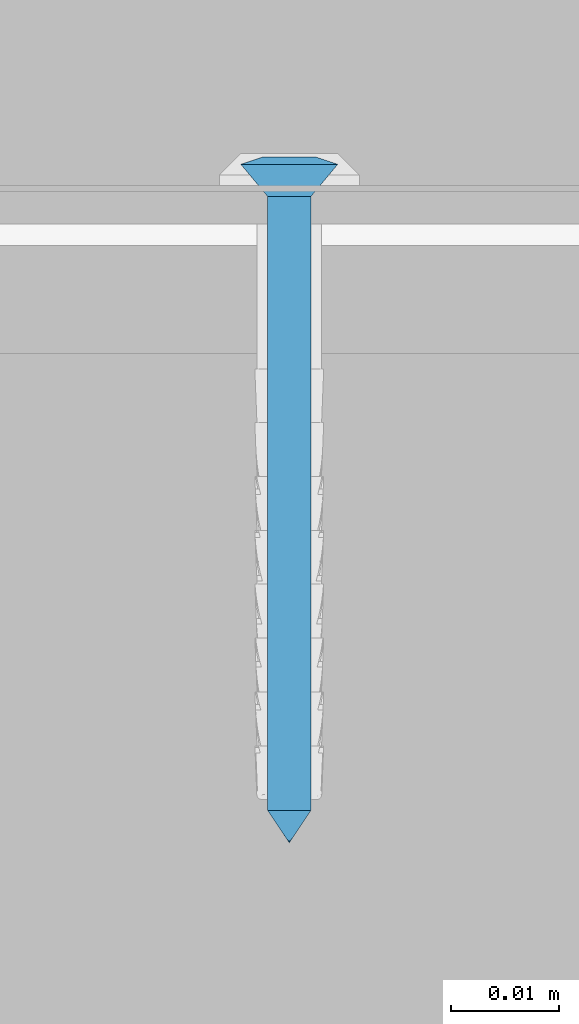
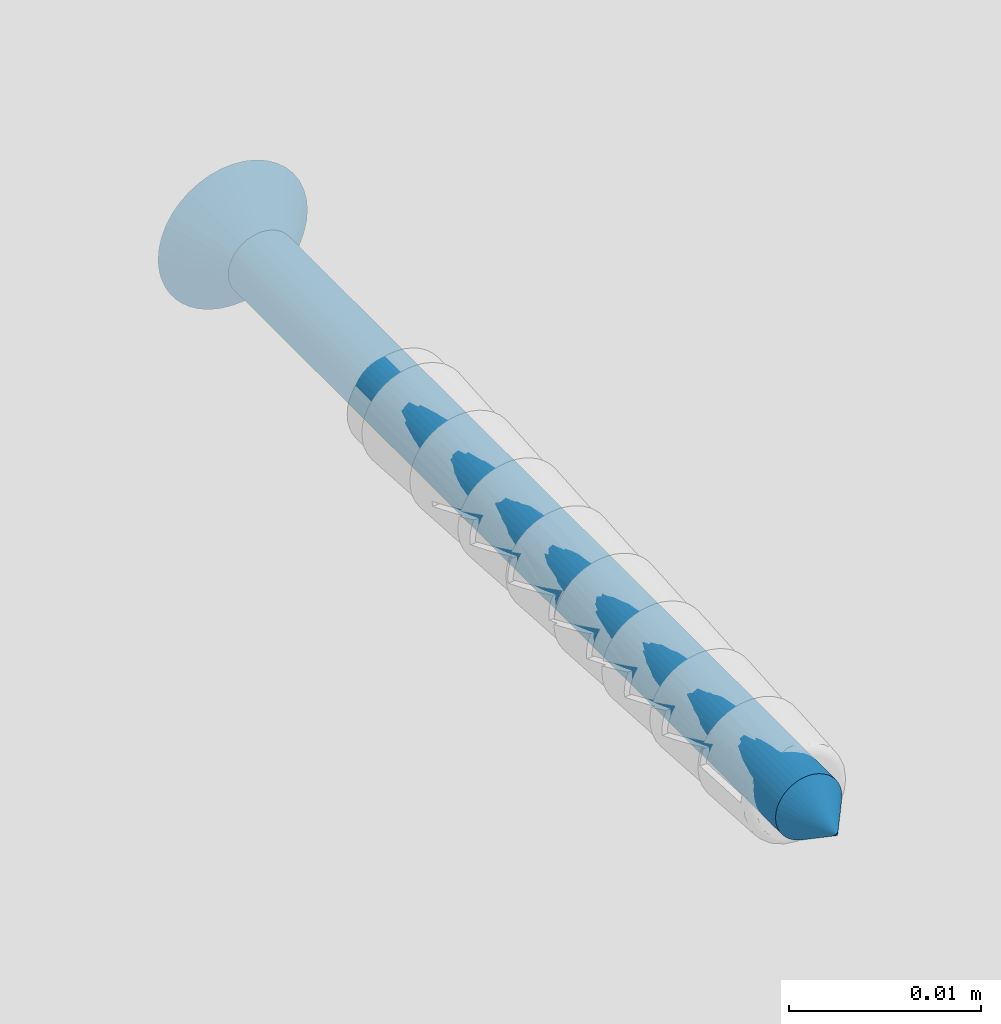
# One storey, part 12 of 92: 1 wall.
"""IFC2X3 building model written with IfcOpenShell, lengths in millimetres."""

from ifc_helpers import new_model, si_unit, frame, origin_with_axes, place, context, subcontext, project, spatial, faceted_brep, material, type_object, element, save


model = new_model("IFC2X3")

# Units and contexts
model_context = context("Model", 3, world=origin_with_axes())
body_context = subcontext(model_context, "Body", "Model", "MODEL_VIEW")
ifc_project = project(units=[si_unit("LENGTHUNIT", "METRE", prefix="MILLI"), si_unit("AREAUNIT", "SQUARE_METRE"), si_unit("VOLUMEUNIT", "CUBIC_METRE")], contexts=[model_context])

# Site, building, storey
site_placement = place(None, origin_with_axes())
site = spatial("IfcSite", under=ifc_project, at=site_placement, Name="Default Site", CompositionType="ELEMENT")
building_placement = place(site_placement, origin_with_axes())
building = spatial("IfcBuilding", under=site, at=building_placement, Name="Default Building", CompositionType="ELEMENT")
storey_placement = place(building_placement, origin_with_axes())
storey = spatial("IfcBuildingStorey", under=building, at=storey_placement, Name="Default Building Storey", CompositionType="ELEMENT", Elevation=0.0)

# Wall
ifc_material = material(Name="Default")
wall_type = type_object("IfcWallType", Name="Kołek rozporowy min. fi 6", PredefinedType="NOTDEFINED")
wall_placement = place(storey_placement, frame((3527.8498144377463, 118.01549176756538, 3896.2310908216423), z_axis=(-1.89380159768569e-13, 1.0, 3.3306690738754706e-16), x_axis=(1.9030997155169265e-13, -3.3306690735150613e-16, 1.0)))
element("IfcWall", 1, at=wall_placement, inside=storey, type_object=wall_type, material=ifc_material, Name="Kołek rozporowy min. fi 6", context=body_context, shape_type="Brep", body=[
    faceted_brep([(-1438.2587671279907, -3452.579259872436, -0.46425670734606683), (-1435.7895851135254, -3452.970266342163, -3.464256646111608), (-1435.8141422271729, -3453.2833099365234, -3.464256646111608), (-1438.3141994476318, -3453.2833099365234, -0.46425670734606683), (-1438.093900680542, -3451.892614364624, -0.46425670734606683), (-1435.7162714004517, -3452.6650905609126, -3.464256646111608), (-1437.8236532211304, -3451.240301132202, -0.46425670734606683), (-1435.5961084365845, -3452.3751735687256, -3.464256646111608), (-1437.4547004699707, -3450.6382942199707, -0.46425670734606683), (-1435.4321956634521, -3452.107667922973, -3.464256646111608), (-1436.9961023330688, -3450.101137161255, -0.46425670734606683), (-1435.22834777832, -3451.8690109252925, -3.464256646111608), (-1436.4591836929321, -3449.642658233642, -0.46425670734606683), (-1434.9896907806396, -3451.665163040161, -3.464256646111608), (-1435.8570575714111, -3449.2735862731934, -0.46425670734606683), (-1434.7221851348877, -3451.501131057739, -3.464256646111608), (-1435.2047443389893, -3449.0034580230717, -0.46425670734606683), (-1434.4321489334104, -3451.381206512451, -3.464256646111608), (-1434.5180988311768, -3448.838710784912, -0.46425670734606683), (-1434.1269731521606, -3451.307773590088, -3.464256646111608), (-1433.8141679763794, -3448.7831592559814, -0.46425670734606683), (-1433.8141679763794, -3451.28321647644, -3.464256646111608), (-1433.110237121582, -3448.838710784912, -0.46425670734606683), (-1433.5012435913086, -3451.307773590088, -3.464256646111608), (-1432.4235916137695, -3449.0034580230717, -0.46425670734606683), (-1433.1960678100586, -3451.381206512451, -3.464256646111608), (-1431.771159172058, -3449.2735862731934, -0.46425670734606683), (-1432.9061508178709, -3451.501131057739, -3.464256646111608), (-1431.1691522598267, -3449.642658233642, -0.46425670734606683), (-1432.6385259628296, -3451.665163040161, -3.464256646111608), (-1430.6321144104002, -3450.101137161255, -0.46425670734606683), (-1432.3999881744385, -3451.8690109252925, -3.464256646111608), (-1430.1735162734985, -3450.6382942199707, -0.46425670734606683), (-1432.1961402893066, -3452.107667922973, -3.464256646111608), (-1429.8045635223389, -3451.240301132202, -0.46425670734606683), (-1432.0321083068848, -3452.3751735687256, -3.464256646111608), (-1429.5344352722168, -3451.892614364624, -0.46425670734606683), (-1431.9120645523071, -3452.6650905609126, -3.464256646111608), (-1431.814193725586, -3453.2833099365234, -3.464256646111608), (-1429.314136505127, -3453.2833099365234, -0.46425670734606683), (-1429.369568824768, -3453.9871215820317, -0.46425670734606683), (-1431.8387508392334, -3453.5961151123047, -3.464256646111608), (-1431.8387508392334, -3452.970266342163, -3.464256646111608), (-1429.369568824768, -3452.579259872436, -0.46425670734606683), (-1429.5344352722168, -3454.6737670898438, -0.46425670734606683), (-1431.9120645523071, -3453.9012908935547, -3.464256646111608), (-1429.8045635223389, -3455.3260803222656, -0.46425670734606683), (-1432.0321083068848, -3454.191207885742, -3.464256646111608), (-1430.1735162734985, -3455.9283256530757, -0.46425670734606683), (-1432.1961402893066, -3454.458713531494, -3.464256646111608), (-1430.6321144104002, -3456.465244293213, -0.46425670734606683), (-1432.3999881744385, -3454.6973705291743, -3.464256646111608), (-1431.1691522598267, -3456.923723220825, -0.46425670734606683), (-1432.6385259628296, -3454.9012184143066, -3.464256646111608), (-1431.771159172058, -3457.2927951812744, -0.46425670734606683), (-1432.9061508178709, -3455.065250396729, -3.464256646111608), (-1432.4235916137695, -3457.562923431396, -0.46425670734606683), (-1433.1960678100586, -3455.1854133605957, -3.464256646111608), (-1433.110237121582, -3457.7279090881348, -0.46425670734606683), (-1433.5012435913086, -3455.25860786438, -3.464256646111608), (-1433.8141679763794, -3457.7832221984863, -0.46425670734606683), (-1433.8141679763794, -3455.283164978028, -3.464256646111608), (-1434.1269731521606, -3455.25860786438, -3.464256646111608), (-1434.3430995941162, -3457.7519893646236, -0.46425670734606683), (-1434.4321489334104, -3455.1854133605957, -3.464256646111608), (-1434.8646402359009, -3457.6590061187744, -0.46425670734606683), (-1435.3716373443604, -3457.504987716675, -0.46425670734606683), (-1434.7221851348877, -3455.065250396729, -3.464256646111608), (-1435.8570575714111, -3457.2927951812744, -0.46425670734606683), (-1436.3142251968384, -3457.024812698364, -0.46425670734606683), (-1435.22834777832, -3454.6973705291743, -3.464256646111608), (-1434.9896907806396, -3454.9012184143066, -3.464256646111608), (-1436.7367029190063, -3456.705093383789, -0.46425670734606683), (-1437.118649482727, -3456.337928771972, -0.46425670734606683), (-1435.4321956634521, -3454.458713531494, -3.464256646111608), (-1437.4547004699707, -3455.9283256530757, -0.46425670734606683), (-1437.8236532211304, -3455.3260803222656, -0.46425670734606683), (-1435.5961084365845, -3454.191207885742, -3.464256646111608), (-1438.093900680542, -3454.6737670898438, -0.46425670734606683), (-1435.7162714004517, -3453.9012908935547, -3.464256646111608), (-1438.2587671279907, -3453.9871215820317, -0.46425670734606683), (-1435.7895851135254, -3453.5961151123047, -3.464256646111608), (-1433.8141679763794, -3455.7831287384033, 0.20073754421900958), (-1434.2052936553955, -3455.752372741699, 0.20073754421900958), (-1434.5866441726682, -3455.6608200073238, 0.20073754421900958), (-1434.9491596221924, -3455.510854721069, 0.20073754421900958), (-1435.2836608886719, -3455.305814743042, 0.20073754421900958), (-1435.581922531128, -3455.0509452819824, 0.20073754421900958), (-1435.836672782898, -3454.7526836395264, 0.20073754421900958), (-1436.0417127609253, -3454.418182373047, 0.20073754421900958), (-1436.1917972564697, -3454.0557861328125, 0.20073754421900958), (-1436.2833499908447, -3453.6743164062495, 0.20073754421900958), (-1436.3141059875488, -3453.2833099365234, 0.20073754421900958), (-1436.2833499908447, -3452.8920650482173, 0.20073754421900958), (-1436.1917972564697, -3452.5105953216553, 0.20073754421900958), (-1436.0417127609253, -3452.148199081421, 0.20073754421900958), (-1435.836672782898, -3451.8136978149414, 0.20073754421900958), (-1435.581922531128, -3451.5154361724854, 0.20073754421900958), (-1435.2836608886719, -3451.260566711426, 0.20073754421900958), (-1434.9491596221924, -3451.0557651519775, 0.20073754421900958), (-1434.5866441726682, -3450.905561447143, 0.20073754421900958), (-1433.8141679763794, -3450.7832527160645, 0.20073754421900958), (-1433.4230422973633, -3450.8140087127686, 0.20073754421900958), (-1434.2052936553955, -3450.8140087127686, 0.20073754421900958), (-1433.0415725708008, -3450.905561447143, 0.20073754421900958), (-1432.6791763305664, -3451.0557651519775, 0.20073754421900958), (-1432.344675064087, -3451.260566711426, 0.20073754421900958), (-1432.0464134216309, -3451.5154361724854, 0.20073754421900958), (-1431.7916631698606, -3451.8136978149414, 0.20073754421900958), (-1431.5866231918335, -3452.148199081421, 0.20073754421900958), (-1431.436538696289, -3452.5105953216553, 0.20073754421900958), (-1431.344985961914, -3452.8920650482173, 0.20073754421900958), (-1431.3141107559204, -3453.2833099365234, 0.20073754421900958), (-1431.344985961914, -3453.6743164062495, 0.20073754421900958), (-1431.436538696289, -3454.0557861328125, 0.20073754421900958), (-1431.5866231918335, -3454.418182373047, 0.20073754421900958), (-1431.7916631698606, -3454.7526836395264, 0.20073754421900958), (-1432.0464134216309, -3455.0509452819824, 0.20073754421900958), (-1432.344675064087, -3455.305814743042, 0.20073754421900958), (-1432.6791763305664, -3455.510854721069, 0.20073754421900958), (-1433.0415725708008, -3455.6608200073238, 0.20073754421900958), (-1433.4230422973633, -3455.752372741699, 0.20073754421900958), (-1435.8141422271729, -3453.2833099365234, -60.464255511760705), (-1435.7895851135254, -3452.970266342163, -60.464255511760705), (-1433.8141679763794, -3453.2833099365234, -63.46425414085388), (-1435.7162714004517, -3452.6650905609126, -60.464255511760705), (-1435.5961084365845, -3452.3751735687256, -60.464255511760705), (-1435.4321956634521, -3452.107667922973, -60.464255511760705), (-1435.22834777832, -3451.8690109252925, -60.464255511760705), (-1434.9896907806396, -3451.665163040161, -60.464255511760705), (-1434.7221851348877, -3451.501131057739, -60.464255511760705), (-1434.4321489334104, -3451.381206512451, -60.464255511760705), (-1434.1269731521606, -3451.307773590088, -60.464255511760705), (-1433.8141679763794, -3451.28321647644, -60.464255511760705), (-1433.5012435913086, -3451.307773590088, -60.464255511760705), (-1433.1960678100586, -3451.381206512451, -60.464255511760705), (-1432.9061508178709, -3451.501131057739, -60.464255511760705), (-1432.6385259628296, -3451.665163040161, -60.464255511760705), (-1432.3999881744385, -3451.8690109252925, -60.464255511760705), (-1432.1961402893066, -3452.107667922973, -60.464255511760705), (-1432.0321083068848, -3452.3751735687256, -60.464255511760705), (-1431.9120645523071, -3452.6650905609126, -60.464255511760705), (-1431.8387508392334, -3452.970266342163, -60.464255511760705), (-1431.814193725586, -3453.2833099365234, -60.464255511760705), (-1431.8387508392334, -3453.5961151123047, -60.464255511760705), (-1431.9120645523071, -3453.9012908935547, -60.464255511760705), (-1432.0321083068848, -3454.191207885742, -60.464255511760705), (-1432.1961402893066, -3454.458713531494, -60.464255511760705), (-1432.3999881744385, -3454.6973705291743, -60.464255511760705), (-1432.6385259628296, -3454.9012184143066, -60.464255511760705), (-1432.9061508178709, -3455.065250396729, -60.464255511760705), (-1433.1960678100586, -3455.1854133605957, -60.464255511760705), (-1433.5012435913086, -3455.25860786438, -60.464255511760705), (-1433.8141679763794, -3455.283164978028, -60.464255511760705), (-1434.1269731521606, -3455.25860786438, -60.464255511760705), (-1434.4321489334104, -3455.1854133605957, -60.464255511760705), (-1434.7221851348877, -3455.065250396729, -60.464255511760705), (-1434.9896907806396, -3454.9012184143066, -60.464255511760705), (-1435.22834777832, -3454.6973705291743, -60.464255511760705), (-1435.4321956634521, -3454.458713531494, -60.464255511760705), (-1435.5961084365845, -3454.191207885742, -60.464255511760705), (-1435.7162714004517, -3453.9012908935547, -60.464255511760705), (-1435.7895851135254, -3453.5961151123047, -60.464255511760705), (-1436.1917972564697, -3454.0557861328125, 0.049999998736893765), (-1436.0417127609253, -3454.418182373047, 0.049999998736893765), (-1435.836672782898, -3454.7526836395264, 0.049999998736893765), (-1435.581922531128, -3455.0509452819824, 0.049999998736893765), (-1435.2836608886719, -3455.305814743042, 0.049999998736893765), (-1434.9491596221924, -3455.510854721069, 0.049999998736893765), (-1434.5866441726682, -3455.6608200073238, 0.049999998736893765), (-1434.2052936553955, -3455.752372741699, 0.049999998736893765), (-1433.8141679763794, -3455.7831287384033, 0.049999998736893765), (-1433.4230422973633, -3455.752372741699, 0.049999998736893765), (-1433.0415725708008, -3455.6608200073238, 0.049999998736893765), (-1432.6791763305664, -3455.510854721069, 0.049999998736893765), (-1432.344675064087, -3455.305814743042, 0.049999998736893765), (-1432.0464134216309, -3455.0509452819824, 0.049999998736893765), (-1431.7916631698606, -3454.7526836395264, 0.049999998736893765), (-1431.5866231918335, -3454.418182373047, 0.049999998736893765), (-1431.436538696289, -3454.0557861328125, 0.049999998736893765), (-1431.344985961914, -3453.6743164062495, 0.049999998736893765), (-1431.3141107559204, -3453.2833099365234, 0.049999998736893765), (-1431.344985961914, -3452.8920650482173, 0.049999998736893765), (-1431.436538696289, -3452.5105953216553, 0.049999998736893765), (-1431.5866231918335, -3452.148199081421, 0.049999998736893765), (-1431.7916631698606, -3451.8136978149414, 0.049999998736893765), (-1432.0464134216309, -3451.5154361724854, 0.049999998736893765), (-1432.344675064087, -3451.260566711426, 0.049999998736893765), (-1432.6791763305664, -3451.0557651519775, 0.049999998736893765), (-1433.0415725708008, -3450.905561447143, 0.049999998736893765), (-1433.4230422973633, -3450.8140087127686, 0.049999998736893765), (-1433.8141679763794, -3450.7832527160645, 0.049999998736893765), (-1434.2052936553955, -3450.8140087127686, 0.049999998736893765), (-1434.5866441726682, -3450.905561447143, 0.049999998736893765), (-1434.9491596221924, -3451.0557651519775, 0.049999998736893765), (-1435.2836608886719, -3451.260566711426, 0.049999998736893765), (-1435.581922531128, -3451.5154361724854, 0.049999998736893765), (-1435.836672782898, -3451.8136978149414, 0.049999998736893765), (-1436.0417127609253, -3452.148199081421, 0.049999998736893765), (-1436.1917972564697, -3452.5105953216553, 0.049999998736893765), (-1436.2833499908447, -3452.8920650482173, 0.049999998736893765), (-1436.3141059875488, -3453.2833099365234, 0.049999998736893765), (-1436.2833499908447, -3453.6743164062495, 0.049999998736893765), (-1434.3141317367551, -3453.7832736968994, 0.049999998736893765), (-1435.8141422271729, -3453.7832736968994, 0.049999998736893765), (-1435.8141422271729, -3452.7831077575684, 0.049999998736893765), (-1434.3141317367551, -3452.7831077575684, 0.049999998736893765), (-1434.3141317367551, -3451.28321647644, 0.049999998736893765), (-1433.3142042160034, -3451.28321647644, 0.049999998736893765), (-1433.3142042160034, -3452.7831077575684, 0.049999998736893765), (-1431.814193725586, -3452.7831077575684, 0.049999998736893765), (-1431.814193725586, -3453.7832736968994, 0.049999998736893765), (-1433.3142042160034, -3453.7832736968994, 0.049999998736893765), (-1433.3142042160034, -3455.283164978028, 0.049999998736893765), (-1434.3141317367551, -3455.283164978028, 0.049999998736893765), (-1435.8141422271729, -3452.7831077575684, -1.799262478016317), (-1435.8141422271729, -3453.7832736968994, -1.799262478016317), (-1434.3141317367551, -3453.7832736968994, -1.799262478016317), (-1434.3141317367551, -3455.283164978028, -1.799262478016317), (-1433.3142042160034, -3455.283164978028, -1.799262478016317), (-1433.3142042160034, -3453.7832736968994, -1.799262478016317), (-1431.814193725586, -3453.7832736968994, -1.799262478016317), (-1431.814193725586, -3452.7831077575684, -1.799262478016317), (-1433.3142042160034, -3452.7831077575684, -1.799262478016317), (-1433.3142042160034, -3451.28321647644, -1.799262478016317), (-1434.3141317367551, -3451.28321647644, -1.799262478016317), (-1434.3141317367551, -3452.7831077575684, -1.799262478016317)], [[[0, 1, 2, 3]], [[1, 0, 4, 5]], [[5, 4, 6, 7]], [[8, 9, 7, 6]], [[9, 8, 10, 11]], [[12, 13, 11, 10]], [[13, 12, 14, 15]], [[15, 14, 16, 17]], [[18, 19, 17, 16]], [[19, 18, 20, 21]], [[22, 23, 21, 20]], [[23, 22, 24, 25]], [[25, 24, 26, 27]], [[28, 29, 27, 26]], [[29, 28, 30, 31]], [[32, 33, 31, 30]], [[33, 32, 34, 35]], [[35, 34, 36, 37]], [[38, 39, 40, 41]], [[42, 43, 39, 38]], [[43, 42, 37, 36]], [[41, 40, 44, 45]], [[45, 44, 46, 47]], [[48, 49, 47, 46]], [[49, 48, 50, 51]], [[52, 53, 51, 50]], [[53, 52, 54, 55]], [[55, 54, 56, 57]], [[58, 59, 57, 56]], [[59, 58, 60, 61]], [[62, 60, 63]], [[62, 61, 60]], [[63, 64, 62]], [[63, 65, 64]], [[64, 65, 66]], [[66, 67, 64]], [[66, 68, 67]], [[69, 70, 71]], [[69, 72, 70]], [[71, 68, 69]], [[71, 67, 68]], [[72, 73, 70]], [[74, 73, 75]], [[74, 70, 73]], [[74, 75, 76, 77]], [[77, 76, 78, 79]], [[80, 81, 79, 78]], [[81, 80, 3, 2]], [[63, 82, 83]], [[63, 60, 82]], [[83, 65, 63]], [[83, 84, 65]], [[84, 68, 66]], [[84, 85, 68]], [[66, 65, 84]], [[69, 85, 86]], [[69, 68, 85]], [[87, 73, 72]], [[72, 86, 87]], [[72, 69, 86]], [[75, 87, 88]], [[75, 73, 87]], [[75, 88, 89, 76]], [[76, 89, 90, 78]], [[91, 80, 78, 90]], [[80, 91, 92, 3]], [[93, 0, 3, 92]], [[0, 93, 94, 4]], [[4, 94, 95, 6]], [[96, 8, 6, 95]], [[8, 96, 97, 10]], [[98, 12, 10, 97]], [[12, 98, 99, 14]], [[14, 99, 100, 16]], [[20, 101, 102, 22]], [[18, 103, 101, 20]], [[103, 18, 16, 100]], [[22, 102, 104, 24]], [[24, 104, 105, 26]], [[106, 28, 26, 105]], [[28, 106, 107, 30]], [[108, 32, 30, 107]], [[32, 108, 109, 34]], [[34, 109, 110, 36]], [[111, 43, 36, 110]], [[43, 111, 112, 39]], [[113, 40, 39, 112]], [[40, 113, 114, 44]], [[44, 114, 115, 46]], [[116, 48, 46, 115]], [[48, 116, 117, 50]], [[118, 52, 50, 117]], [[52, 118, 119, 54]], [[54, 119, 120, 56]], [[121, 58, 56, 120]], [[58, 121, 82, 60]], [[122, 123, 124]], [[123, 125, 124]], [[125, 126, 124]], [[124, 126, 127]], [[127, 128, 124]], [[124, 128, 129]], [[129, 130, 124]], [[130, 131, 124]], [[124, 131, 132]], [[132, 133, 124]], [[124, 133, 134]], [[134, 135, 124]], [[135, 136, 124]], [[124, 136, 137]], [[137, 138, 124]], [[124, 138, 139]], [[139, 140, 124]], [[140, 141, 124]], [[124, 141, 142]], [[142, 143, 124]], [[124, 143, 144]], [[144, 145, 124]], [[145, 146, 124]], [[124, 146, 147]], [[147, 148, 124]], [[124, 148, 149]], [[149, 150, 124]], [[150, 151, 124]], [[124, 151, 152]], [[152, 153, 124]], [[124, 153, 154]], [[154, 155, 124]], [[155, 156, 124]], [[124, 156, 157]], [[157, 158, 124]], [[124, 158, 159]], [[159, 160, 124]], [[160, 161, 124]], [[124, 161, 162]], [[124, 162, 122]], [[1, 123, 122, 2]], [[123, 1, 5, 125]], [[125, 5, 7, 126]], [[9, 127, 126, 7]], [[127, 9, 11, 128]], [[13, 129, 128, 11]], [[129, 13, 15, 130]], [[130, 15, 17, 131]], [[19, 132, 131, 17]], [[132, 19, 21, 133]], [[23, 134, 133, 21]], [[134, 23, 25, 135]], [[135, 25, 27, 136]], [[29, 137, 136, 27]], [[137, 29, 31, 138]], [[33, 139, 138, 31]], [[139, 33, 35, 140]], [[140, 35, 37, 141]], [[143, 38, 41, 144]], [[142, 42, 38, 143]], [[42, 142, 141, 37]], [[144, 41, 45, 145]], [[145, 45, 47, 146]], [[49, 147, 146, 47]], [[147, 49, 51, 148]], [[53, 149, 148, 51]], [[149, 53, 55, 150]], [[150, 55, 57, 151]], [[59, 152, 151, 57]], [[152, 59, 61, 153]], [[62, 154, 153, 61]], [[154, 62, 64, 155]], [[155, 64, 67, 156]], [[71, 157, 156, 67]], [[157, 71, 70, 158]], [[74, 159, 158, 70]], [[159, 74, 77, 160]], [[160, 77, 79, 161]], [[81, 162, 161, 79]], [[162, 81, 2, 122]], [[163, 164, 165, 166, 167, 168, 169, 170, 171, 172, 173, 174, 175, 176, 177, 178, 179, 180, 181, 182, 183, 184, 185, 186, 187, 188, 189, 190, 191, 192, 193, 194, 195, 196, 197, 198, 199, 200, 201, 202], [203, 204, 205, 206, 207, 208, 209, 210, 211, 212, 213, 214]], [[113, 112, 181, 180]], [[180, 179, 114, 113]], [[179, 178, 115, 114]], [[116, 115, 178, 177]], [[177, 176, 117, 116]], [[118, 117, 176, 175]], [[175, 174, 119, 118]], [[174, 173, 120, 119]], [[121, 120, 173, 172]], [[172, 171, 82, 121]], [[83, 82, 171, 170]], [[170, 169, 84, 83]], [[169, 168, 85, 84]], [[86, 85, 168, 167]], [[167, 166, 87, 86]], [[88, 87, 166, 165]], [[165, 164, 89, 88]], [[164, 163, 90, 89]], [[201, 200, 93, 92]], [[202, 201, 92, 91]], [[91, 90, 163, 202]], [[200, 199, 94, 93]], [[199, 198, 95, 94]], [[96, 95, 198, 197]], [[197, 196, 97, 96]], [[98, 97, 196, 195]], [[195, 194, 99, 98]], [[194, 193, 100, 99]], [[103, 100, 193, 192]], [[192, 191, 101, 103]], [[102, 101, 191, 190]], [[190, 189, 104, 102]], [[189, 188, 105, 104]], [[106, 105, 188, 187]], [[187, 186, 107, 106]], [[108, 107, 186, 185]], [[185, 184, 109, 108]], [[184, 183, 110, 109]], [[111, 110, 183, 182]], [[182, 181, 112, 111]], [[215, 216, 217, 218, 219, 220, 221, 222, 223, 224, 225, 226]], [[224, 208, 207, 225]], [[225, 207, 206, 226]], [[226, 206, 205, 215]], [[215, 205, 204, 216]], [[216, 204, 203, 217]], [[217, 203, 214, 218]], [[218, 214, 213, 219]], [[219, 213, 212, 220]], [[220, 212, 211, 221]], [[221, 211, 210, 222]], [[222, 210, 209, 223]], [[223, 209, 208, 224]]]),
])

save(model, "model.ifc")
